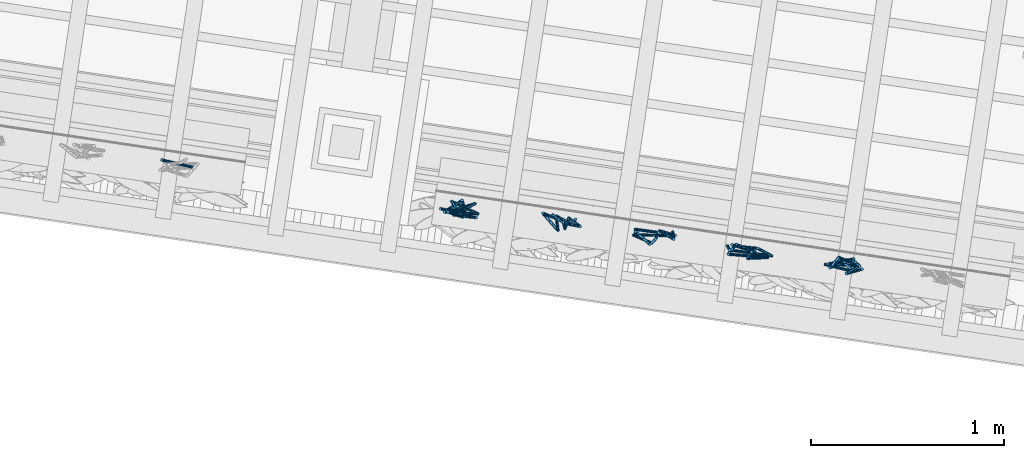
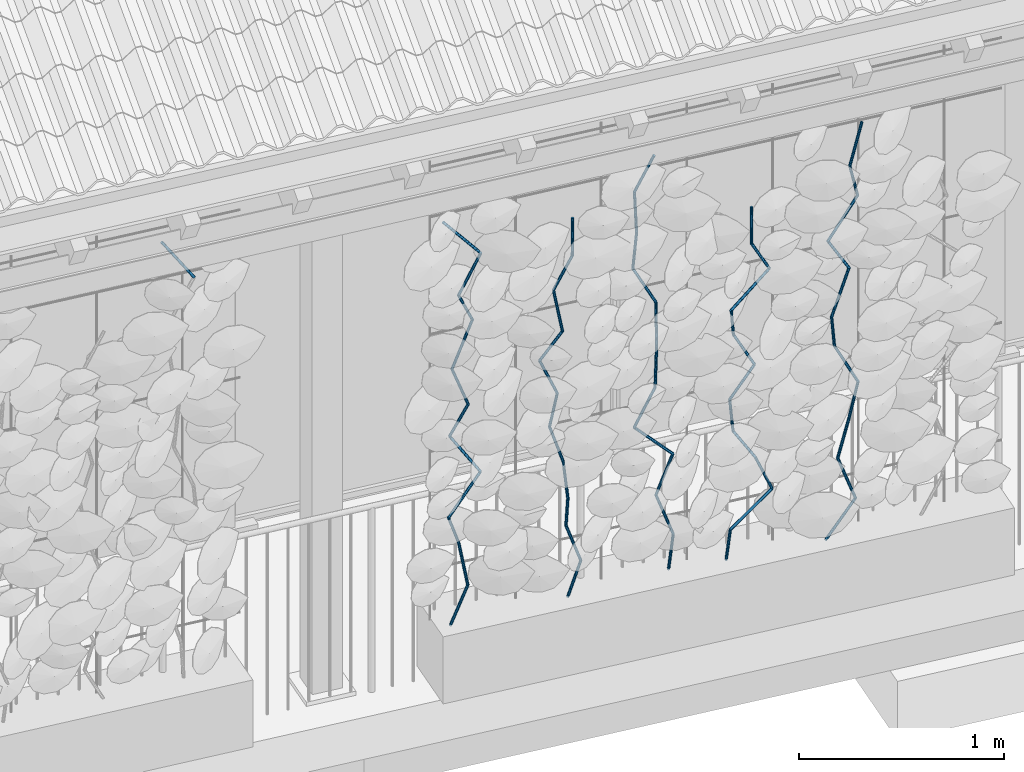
# One storey, part 110 of 131: 56 members, 1 element without a shape of its own.
"""IFC4 building model written with IfcOpenShell, lengths in metres."""

from ifc_helpers import new_model, si_unit, direction, frame, origin_with_axes, place, context, subcontext, project, spatial, circle, extrude, material, material_profile, profile_set, profile_usage, type_object, element, aggregate, save


model = new_model("IFC4")

# Units and contexts
model_context = context("Model", 3, precision=1e-05, world=origin_with_axes(), true_north=direction((0.0, 1.0)))
body_context = subcontext(model_context, "Body", "Model", "MODEL_VIEW")
ifc_project = project(units=[si_unit("AREAUNIT", "SQUARE_METRE"), si_unit("VOLUMEUNIT", "CUBIC_METRE"), si_unit("LENGTHUNIT", "METRE")], contexts=[model_context])

# Site, building, storey
site_placement = place(None, origin_with_axes())
site = spatial("IfcSite", under=ifc_project, at=site_placement, Name="Lares · Rua das Mercês · artigo 4771")
building_placement = place(site_placement, frame((15.0, 9.7, 14.65), z_axis=(0.0, 0.0, 1.0), x_axis=(0.989015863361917, -0.147809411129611, 0.0)))
building = spatial("IfcBuilding", under=site, at=building_placement, Name="Casa Sobreposta")
storey_placement = place(building_placement, origin_with_axes())
storey = spatial("IfcBuildingStorey", under=building, at=storey_placement, Name="00 · Habitação e estacionamento", Elevation=14.65)

# Assembly, members
assembly_placement = place(storey_placement, origin_with_axes())
assembly = element("IfcElementAssembly", 1, at=assembly_placement, inside=storey, Name="Fachada sul e pátio · estrutura e trepadeiras", ObjectType="LIVING_SHADE_TRELLIS", PredefinedType="USERDEFINED")
ifc_material = material(Name="Ramos de trepadeiras", Category="wood")
ifc_material_profile = material_profile(ifc_material, circle(Radius=0.0075))
ifc_profile_set = profile_set([ifc_material_profile], Name="D0.015")
ifc_profile_usage_1 = profile_usage(ifc_profile_set)
member_type = type_object("IfcMemberType", Name="D0.015 / vine_wood", PredefinedType="NOTDEFINED", material=ifc_profile_set)
member_1_placement = place(assembly_placement, frame((7.23474706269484, -1.67516306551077, 2.75997895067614), z_axis=(-0.561074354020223, 0.0463893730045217, 0.826464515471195), x_axis=(0.0823983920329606, 0.996599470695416, 0.0)))
member_1 = element("IfcMember", 2, at=member_1_placement, type_object=member_type, material=ifc_profile_usage_1, Name="Trepadeiras · ramo", context=body_context, shape_type="SweptSolid", body=[
    extrude(circle(Radius=0.0075), origin_with_axes(), (0.0, 0.0, 1.0), 0.29160101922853),
])
ifc_profile_usage_2 = profile_usage(ifc_profile_set)
member_2_placement = place(assembly_placement, frame((8.57260770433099, -1.69487939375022, 0.35), z_axis=(0.387109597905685, -0.00148647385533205, 0.922032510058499), x_axis=(-0.00383990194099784, -0.999992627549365, 0.0)))
member_2 = element("IfcMember", 3, at=member_2_placement, type_object=member_type, material=ifc_profile_usage_2, Name="Trepadeiras · ramo", context=body_context, shape_type="SweptSolid", body=[
    extrude(circle(Radius=0.0075), origin_with_axes(), (0.0, 0.0, 1.0), 0.23837097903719),
])
ifc_profile_usage_3 = profile_usage(ifc_profile_set)
member_3_placement = place(assembly_placement, frame((8.66488339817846, -1.69523372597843, 0.569785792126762), z_axis=(-0.111886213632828, 0.247324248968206, 0.962451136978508), x_axis=(0.911105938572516, 0.412172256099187, 0.0)))
member_3 = element("IfcMember", 4, at=member_3_placement, type_object=member_type, material=ifc_profile_usage_3, Name="Trepadeiras · ramo", context=body_context, shape_type="SweptSolid", body=[
    extrude(circle(Radius=0.0075), origin_with_axes(), (0.0, 0.0, 1.0), 0.228360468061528),
])
ifc_profile_usage_4 = profile_usage(ifc_profile_set)
member_4_placement = place(assembly_placement, frame((8.63933301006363, -1.63875464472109, 0.789571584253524), z_axis=(-0.334534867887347, -0.296332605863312, 0.894580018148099), x_axis=(-0.663073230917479, 0.748554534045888, 0.0)))
member_4 = element("IfcMember", 5, at=member_4_placement, type_object=member_type, material=ifc_profile_usage_4, Name="Trepadeiras · ramo", context=body_context, shape_type="SweptSolid", body=[
    extrude(circle(Radius=0.0075), origin_with_axes(), (0.0, 0.0, 1.0), 0.245686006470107),
])
ifc_profile_usage_5 = profile_usage(ifc_profile_set)
member_5_placement = place(assembly_placement, frame((8.55714247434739, -1.71155941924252, 1.00935737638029), z_axis=(0.619826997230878, 0.0569296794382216, 0.782670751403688), x_axis=(0.0914627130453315, -0.99580850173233, 0.0)))
member_5 = element("IfcMember", 6, at=member_5_placement, type_object=member_type, material=ifc_profile_usage_5, Name="Trepadeiras · ramo", context=body_context, shape_type="SweptSolid", body=[
    extrude(circle(Radius=0.0075), origin_with_axes(), (0.0, 0.0, 1.0), 0.280815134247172),
])
ifc_profile_usage_6 = profile_usage(ifc_profile_set)
member_6_placement = place(assembly_placement, frame((8.7311992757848, -1.69557270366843, 1.22914316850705), z_axis=(-0.543524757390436, 0.163952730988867, 0.823225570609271), x_axis=(0.288794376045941, 0.957391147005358, 0.0)))
member_6 = element("IfcMember", 7, at=member_6_placement, type_object=member_type, material=ifc_profile_usage_6, Name="Trepadeiras · ramo", context=body_context, shape_type="SweptSolid", body=[
    extrude(circle(Radius=0.0075), origin_with_axes(), (0.0, 0.0, 1.0), 0.266981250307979),
])
ifc_profile_usage_7 = profile_usage(ifc_profile_set)
member_7_placement = place(assembly_placement, frame((8.58608835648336, -1.65180039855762, 1.44892896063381), z_axis=(0.287938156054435, -0.297150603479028, 0.910380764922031), x_axis=(-0.718151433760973, -0.69588685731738, 0.0)))
member_7 = element("IfcMember", 8, at=member_7_placement, type_object=member_type, material=ifc_profile_usage_7, Name="Trepadeiras · ramo", context=body_context, shape_type="SweptSolid", body=[
    extrude(circle(Radius=0.0075), origin_with_axes(), (0.0, 0.0, 1.0), 0.241421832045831),
])
ifc_profile_usage_8 = profile_usage(ifc_profile_set)
member_8_placement = place(assembly_placement, frame((8.65560291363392, -1.72353904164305, 1.66871475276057), z_axis=(-0.339136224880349, 0.0610326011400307, 0.938755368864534), x_axis=(0.177119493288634, 0.9841893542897, 0.0)))
member_8 = element("IfcMember", 9, at=member_8_placement, type_object=member_type, material=ifc_profile_usage_8, Name="Trepadeiras · ramo", context=body_context, shape_type="SweptSolid", body=[
    extrude(circle(Radius=0.0075), origin_with_axes(), (0.0, 0.0, 1.0), 0.234124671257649),
])
ifc_profile_usage_9 = profile_usage(ifc_profile_set)
member_9_placement = place(assembly_placement, frame((8.57620275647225, -1.70924980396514, 1.88850054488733), z_axis=(0.500498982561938, 0.242565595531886, 0.831061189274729), x_axis=(0.436127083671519, -0.899885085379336, 0.0)))
member_9 = element("IfcMember", 10, at=member_9_placement, type_object=member_type, material=ifc_profile_usage_9, Name="Trepadeiras · ramo", context=body_context, shape_type="SweptSolid", body=[
    extrude(circle(Radius=0.0075), origin_with_axes(), (0.0, 0.0, 1.0), 0.264464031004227),
])
ifc_profile_usage_10 = profile_usage(ifc_profile_set)
member_10_placement = place(assembly_placement, frame((8.70856673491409, -1.64509992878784, 2.1082863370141), z_axis=(-0.401855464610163, -0.29322403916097, 0.867485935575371), x_axis=(-0.589440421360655, 0.807811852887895, 2.42004269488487e-17)))
member_10 = element("IfcMember", 11, at=member_10_placement, type_object=member_type, material=ifc_profile_usage_10, Name="Trepadeiras · ramo", context=body_context, shape_type="SweptSolid", body=[
    extrude(circle(Radius=0.0075), origin_with_axes(), (0.0, 0.0, 1.0), 0.253359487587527),
])
ifc_profile_usage_11 = profile_usage(ifc_profile_set)
member_11_placement = place(assembly_placement, frame((8.60675284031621, -1.719391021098, 2.32807212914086), z_axis=(0.474109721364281, 0.0126002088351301, 0.880375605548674), x_axis=(0.026567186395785, -0.999647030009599, 0.0)))
member_11 = element("IfcMember", 12, at=member_11_placement, type_object=member_type, material=ifc_profile_usage_11, Name="Trepadeiras · ramo", context=body_context, shape_type="SweptSolid", body=[
    extrude(circle(Radius=0.0075), origin_with_axes(), (0.0, 0.0, 1.0), 0.249650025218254),
])
ifc_profile_usage_12 = profile_usage(ifc_profile_set)
member_12_placement = place(assembly_placement, frame((8.72511434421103, -1.71624537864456, 2.54785792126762), z_axis=(-0.653038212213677, 0.0653463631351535, 0.754500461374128), x_axis=(0.0995678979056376, 0.995030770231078, 0.0)))
member_12 = element("IfcMember", 13, at=member_12_placement, type_object=member_type, material=ifc_profile_usage_12, Name="Trepadeiras · ramo", context=body_context, shape_type="SweptSolid", body=[
    extrude(circle(Radius=0.0075), origin_with_axes(), (0.0, 0.0, 1.0), 0.291299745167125),
])
ifc_profile_usage_13 = profile_usage(ifc_profile_set)
member_13_placement = place(assembly_placement, frame((9.19555170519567, -1.67878128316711, 0.35), z_axis=(0.318258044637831, -0.012888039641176, 0.947916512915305), x_axis=(-0.0404624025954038, -0.9991810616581, 2.58128021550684e-18)))
member_13 = element("IfcMember", 14, at=member_13_placement, type_object=member_type, material=ifc_profile_usage_13, Name="Trepadeiras · ramo", context=body_context, shape_type="SweptSolid", body=[
    extrude(circle(Radius=0.0075), origin_with_axes(), (0.0, 0.0, 1.0), 0.214174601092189),
])
ifc_profile_usage_14 = profile_usage(ifc_profile_set)
member_14_placement = place(assembly_placement, frame((9.26371449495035, -1.68154157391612, 0.553019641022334), z_axis=(-0.299327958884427, 0.157242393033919, 0.941104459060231), x_axis=(0.465054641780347, 0.885281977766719, 0.0)))
member_14 = element("IfcMember", 15, at=member_14_placement, type_object=member_type, material=ifc_profile_usage_14, Name="Trepadeiras · ramo", context=body_context, shape_type="SweptSolid", body=[
    extrude(circle(Radius=0.0075), origin_with_axes(), (0.0, 0.0, 1.0), 0.215724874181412),
])
ifc_profile_usage_15 = profile_usage(ifc_profile_set)
member_15_placement = place(assembly_placement, frame((9.19914200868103, -1.64762047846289, 0.756039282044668), z_axis=(-0.058883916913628, -0.269381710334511, 0.961231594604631), x_axis=(-0.976932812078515, 0.213546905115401, 0.0)))
member_15 = element("IfcMember", 16, at=member_15_placement, type_object=member_type, material=ifc_profile_usage_15, Name="Trepadeiras · ramo", context=body_context, shape_type="SweptSolid", body=[
    extrude(circle(Radius=0.0075), origin_with_axes(), (0.0, 0.0, 1.0), 0.211207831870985),
])
ifc_profile_usage_16 = profile_usage(ifc_profile_set)
member_16_placement = place(assembly_placement, frame((9.18670526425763, -1.70451600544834, 0.959058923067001), z_axis=(-0.0618656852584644, 0.149417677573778, 0.986836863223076), x_axis=(0.923934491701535, 0.382550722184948, 0.0)))
member_16 = element("IfcMember", 17, at=member_16_placement, type_object=member_type, material=ifc_profile_usage_16, Name="Trepadeiras · ramo", context=body_context, shape_type="SweptSolid", body=[
    extrude(circle(Radius=0.0075), origin_with_axes(), (0.0, 0.0, 1.0), 0.205727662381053),
])
ifc_profile_usage_17 = profile_usage(ifc_profile_set)
member_17_placement = place(assembly_placement, frame((9.17397778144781, -1.67377665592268, 1.16207856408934), z_axis=(-0.279521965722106, 0.13950094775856, 0.949951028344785), x_axis=(0.446547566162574, 0.894759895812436, 0.0)))
member_17 = element("IfcMember", 18, at=member_17_placement, type_object=member_type, material=ifc_profile_usage_17, Name="Trepadeiras · ramo", context=body_context, shape_type="SweptSolid", body=[
    extrude(circle(Radius=0.0075), origin_with_axes(), (0.0, 0.0, 1.0), 0.213715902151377),
])
ifc_profile_usage_18 = profile_usage(ifc_profile_set)
member_18_placement = place(assembly_placement, frame((9.11423949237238, -1.64396308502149, 1.36509820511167), z_axis=(0.161935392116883, -0.0887500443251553, 0.982802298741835), x_axis=(-0.480610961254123, -0.876933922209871, 0.0)))
member_18 = element("IfcMember", 19, at=member_18_placement, type_object=member_type, material=ifc_profile_usage_18, Name="Trepadeiras · ramo", context=body_context, shape_type="SweptSolid", body=[
    extrude(circle(Radius=0.0075), origin_with_axes(), (0.0, 0.0, 1.0), 0.206572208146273),
])
ifc_profile_usage_19 = profile_usage(ifc_profile_set)
member_19_placement = place(assembly_placement, frame((9.147690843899, -1.66229637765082, 1.568117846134), z_axis=(-0.385174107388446, 0.0889285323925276, 0.918549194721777), x_axis=(0.224960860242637, 0.974367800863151, 0.0)))
member_19 = element("IfcMember", 20, at=member_19_placement, type_object=member_type, material=ifc_profile_usage_19, Name="Trepadeiras · ramo", context=body_context, shape_type="SweptSolid", body=[
    extrude(circle(Radius=0.0075), origin_with_axes(), (0.0, 0.0, 1.0), 0.221022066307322),
])
ifc_profile_usage_20 = profile_usage(ifc_profile_set)
member_20_placement = place(assembly_placement, frame((9.06255886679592, -1.64264120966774, 1.77113748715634), z_axis=(0.383724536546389, -0.325141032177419, 0.864314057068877), x_axis=(-0.64646469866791, -0.762943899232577, 0.0)))
member_20 = element("IfcMember", 21, at=member_20_placement, type_object=member_type, material=ifc_profile_usage_20, Name="Trepadeiras · ramo", context=body_context, shape_type="SweptSolid", body=[
    extrude(circle(Radius=0.0075), origin_with_axes(), (0.0, 0.0, 1.0), 0.234891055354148),
])
ifc_profile_usage_21 = profile_usage(ifc_profile_set)
member_21_placement = place(assembly_placement, frame((9.15269232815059, -1.71901392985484, 1.97415712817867), z_axis=(-0.0885627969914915, 0.334741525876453, 0.93813897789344), x_axis=(0.966737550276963, 0.255770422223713, 0.0)))
member_21 = element("IfcMember", 22, at=member_21_placement, type_object=member_type, material=ifc_profile_usage_21, Name="Trepadeiras · ramo", context=body_context, shape_type="SweptSolid", body=[
    extrude(circle(Radius=0.0075), origin_with_axes(), (0.0, 0.0, 1.0), 0.216406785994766),
])
ifc_profile_usage_22 = profile_usage(ifc_profile_set)
member_22_placement = place(assembly_placement, frame((9.13352673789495, -1.64657359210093, 2.177176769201), z_axis=(0.387667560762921, -0.142815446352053, 0.910668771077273), x_axis=(-0.34568523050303, -0.938350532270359, 0.0)))
member_22 = element("IfcMember", 23, at=member_22_placement, type_object=member_type, material=ifc_profile_usage_22, Name="Trepadeiras · ramo", context=body_context, shape_type="SweptSolid", body=[
    extrude(circle(Radius=0.0075), origin_with_axes(), (0.0, 0.0, 1.0), 0.222934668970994),
])
ifc_profile_usage_23 = profile_usage(ifc_profile_set)
member_23_placement = place(assembly_placement, frame((9.21995127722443, -1.67841210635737, 2.38019641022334), z_axis=(0.0696493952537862, 0.146990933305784, 0.986682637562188), x_axis=(0.903685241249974, -0.428197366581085, 0.0)))
member_23 = element("IfcMember", 24, at=member_23_placement, type_object=member_type, material=ifc_profile_usage_23, Name="Trepadeiras · ramo", context=body_context, shape_type="SweptSolid", body=[
    extrude(circle(Radius=0.0075), origin_with_axes(), (0.0, 0.0, 1.0), 0.205759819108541),
])
ifc_profile_usage_24 = profile_usage(ifc_profile_set)
member_24_placement = place(assembly_placement, frame((9.74112127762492, -1.63887906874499, 0.35), z_axis=(0.0453912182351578, -0.153199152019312, 0.987152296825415), x_axis=(-0.958800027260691, -0.28408186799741, 0.0)))
member_24 = element("IfcMember", 25, at=member_24_placement, type_object=member_type, material=ifc_profile_usage_24, Name="Trepadeiras · ramo", context=body_context, shape_type="SweptSolid", body=[
    extrude(circle(Radius=0.0075), origin_with_axes(), (0.0, 0.0, 1.0), 0.234813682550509),
])
ifc_profile_usage_25 = profile_usage(ifc_profile_set)
member_25_placement = place(assembly_placement, frame((9.75177975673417, -1.67485232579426, 0.581796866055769), z_axis=(-0.318166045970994, 0.127586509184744, 0.93941047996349), x_axis=(0.37219551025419, 0.928154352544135, 0.0)))
member_25 = element("IfcMember", 26, at=member_25_placement, type_object=member_type, material=ifc_profile_usage_25, Name="Trepadeiras · ramo", context=body_context, shape_type="SweptSolid", body=[
    extrude(circle(Radius=0.0075), origin_with_axes(), (0.0, 0.0, 1.0), 0.246747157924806),
])
ifc_profile_usage_26 = profile_usage(ifc_profile_set)
member_26_placement = place(assembly_placement, frame((9.67327318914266, -1.64337071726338, 0.813593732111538), z_axis=(0.340802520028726, -0.0476376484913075, 0.938927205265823), x_axis=(-0.138434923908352, -0.990371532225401, 0.0)))
member_26 = element("IfcMember", 27, at=member_26_placement, type_object=member_type, material=ifc_profile_usage_26, Name="Trepadeiras · ramo", context=body_context, shape_type="SweptSolid", body=[
    extrude(circle(Radius=0.0075), origin_with_axes(), (0.0, 0.0, 1.0), 0.246874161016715),
])
ifc_profile_usage_27 = profile_usage(ifc_profile_set)
member_27_placement = place(assembly_placement, frame((9.75740852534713, -1.65513122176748, 1.04539059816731), z_axis=(-0.676152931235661, -0.0943361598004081, 0.730696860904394), x_axis=(-0.138180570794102, 0.990407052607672, 0.0)))
member_27 = element("IfcMember", 28, at=member_27_placement, type_object=member_type, material=ifc_profile_usage_27, Name="Trepadeiras · ramo", context=body_context, shape_type="SweptSolid", body=[
    extrude(circle(Radius=0.0075), origin_with_axes(), (0.0, 0.0, 1.0), 0.317227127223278),
])
ifc_profile_usage_28 = profile_usage(ifc_profile_set)
member_28_placement = place(assembly_placement, frame((9.54291447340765, -1.68505721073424, 1.27718746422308), z_axis=(0.390104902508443, -0.1070347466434, 0.914528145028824), x_axis=(-0.264595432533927, -0.964359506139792, 0.0)))
member_28 = element("IfcMember", 29, at=member_28_placement, type_object=member_type, material=ifc_profile_usage_28, Name="Trepadeiras · ramo", context=body_context, shape_type="SweptSolid", body=[
    extrude(circle(Radius=0.0075), origin_with_axes(), (0.0, 0.0, 1.0), 0.253460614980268),
])
ifc_profile_usage_29 = profile_usage(ifc_profile_set)
member_29_placement = place(assembly_placement, frame((9.64179070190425, -1.71218630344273, 1.50898433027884), z_axis=(0.0748317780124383, 0.101112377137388, 0.992056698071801), x_axis=(0.803809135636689, -0.594887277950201, 0.0)))
member_29 = element("IfcMember", 30, at=member_29_placement, type_object=member_type, material=ifc_profile_usage_29, Name="Trepadeiras · ramo", context=body_context, shape_type="SweptSolid", body=[
    extrude(circle(Radius=0.0075), origin_with_axes(), (0.0, 0.0, 1.0), 0.23365284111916),
])
ifc_profile_usage_30 = profile_usage(ifc_profile_set)
member_30_placement = place(assembly_placement, frame((9.65927535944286, -1.68856110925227, 1.74078119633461), z_axis=(0.0400911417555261, 0.152524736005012, 0.987486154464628), x_axis=(0.967147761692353, -0.254214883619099, 0.0)))
member_30 = element("IfcMember", 31, at=member_30_placement, type_object=member_type, material=ifc_profile_usage_30, Name="Trepadeiras · ramo", context=body_context, shape_type="SweptSolid", body=[
    extrude(circle(Radius=0.0075), origin_with_axes(), (0.0, 0.0, 1.0), 0.234734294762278),
])
ifc_profile_usage_31 = profile_usage(ifc_profile_set)
member_31_placement = place(assembly_placement, frame((9.66868612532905, -1.65275832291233, 1.97257806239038), z_axis=(-0.463480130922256, -0.00724472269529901, 0.886077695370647), x_axis=(-0.01562923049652, 0.999877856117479, 0.0)))
member_31 = element("IfcMember", 32, at=member_31_placement, type_object=member_type, material=ifc_profile_usage_31, Name="Trepadeiras · ramo", context=body_context, shape_type="SweptSolid", body=[
    extrude(circle(Radius=0.0075), origin_with_axes(), (0.0, 0.0, 1.0), 0.261598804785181),
])
ifc_profile_usage_32 = profile_usage(ifc_profile_set)
member_32_placement = place(assembly_placement, frame((9.54744027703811, -1.65465353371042, 2.20437492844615), z_axis=(0.0328627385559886, -0.130763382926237, 0.990868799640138), x_axis=(-0.969841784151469, -0.243735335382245, 0.0)))
member_32 = element("IfcMember", 33, at=member_32_placement, type_object=member_type, material=ifc_profile_usage_32, Name="Trepadeiras · ramo", context=body_context, shape_type="SweptSolid", body=[
    extrude(circle(Radius=0.0075), origin_with_axes(), (0.0, 0.0, 1.0), 0.23393295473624),
])
ifc_profile_usage_33 = profile_usage(ifc_profile_set)
member_33_placement = place(assembly_placement, frame((9.55512795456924, -1.68524339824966, 2.43617179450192), z_axis=(-0.0170006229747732, 0.0806829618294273, 0.996594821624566), x_axis=(0.978513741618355, 0.206181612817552, 0.0)))
member_33 = element("IfcMember", 34, at=member_33_placement, type_object=member_type, material=ifc_profile_usage_33, Name="Trepadeiras · ramo", context=body_context, shape_type="SweptSolid", body=[
    extrude(circle(Radius=0.0075), origin_with_axes(), (0.0, 0.0, 1.0), 0.232588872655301),
])
ifc_profile_usage_34 = profile_usage(ifc_profile_set)
member_34_placement = place(assembly_placement, frame((9.5511737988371, -1.66647743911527, 2.66796866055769), z_axis=(0.327277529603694, -0.210771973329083, 0.92112137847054), x_axis=(-0.54144681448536, -0.840735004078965, 3.28382531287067e-17)))
member_34 = element("IfcMember", 35, at=member_34_placement, type_object=member_type, material=ifc_profile_usage_34, Name="Trepadeiras · ramo", context=body_context, shape_type="SweptSolid", body=[
    extrude(circle(Radius=0.0075), origin_with_axes(), (0.0, 0.0, 1.0), 0.251646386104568),
])
ifc_profile_usage_35 = profile_usage(ifc_profile_set)
member_35_placement = place(assembly_placement, frame((10.0322840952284, -1.66794075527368, 0.35), z_axis=(0.0734242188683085, -0.105281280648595, 0.991728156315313), x_axis=(-0.820228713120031, -0.572035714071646, 0.0)))
member_35 = element("IfcMember", 36, at=member_35_placement, type_object=member_type, material=ifc_profile_usage_35, Name="Trepadeiras · ramo", context=body_context, shape_type="SweptSolid", body=[
    extrude(circle(Radius=0.0075), origin_with_axes(), (0.0, 0.0, 1.0), 0.190846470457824),
])
ifc_profile_usage_36 = profile_usage(ifc_profile_set)
member_36_placement = place(assembly_placement, frame((10.0462968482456, -1.68803331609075, 0.539267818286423), z_axis=(0.758571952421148, 0.00704599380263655, 0.651551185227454), x_axis=(0.00928809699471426, -0.999956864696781, 0.0)))
member_36 = element("IfcMember", 37, at=member_36_placement, type_object=member_type, material=ifc_profile_usage_36, Name="Trepadeiras · ramo", context=body_context, shape_type="SweptSolid", body=[
    extrude(circle(Radius=0.0075), origin_with_axes(), (0.0, 0.0, 1.0), 0.290488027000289),
])
ifc_profile_usage_37 = profile_usage(ifc_profile_set)
member_37_placement = place(assembly_placement, frame((10.2666529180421, -1.68598653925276, 0.728535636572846), z_axis=(-0.377309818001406, 0.134851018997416, 0.916216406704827), x_axis=(0.336552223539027, 0.941664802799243, 0.0)))
member_37 = element("IfcMember", 38, at=member_37_placement, type_object=member_type, material=ifc_profile_usage_37, Name="Trepadeiras · ramo", context=body_context, shape_type="SweptSolid", body=[
    extrude(circle(Radius=0.0075), origin_with_axes(), (0.0, 0.0, 1.0), 0.206575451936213),
])
ifc_profile_usage_38 = profile_usage(ifc_profile_set)
member_38_placement = place(assembly_placement, frame((10.1887099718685, -1.65812962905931, 0.917803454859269), z_axis=(-0.530574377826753, -0.0264164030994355, 0.847226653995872), x_axis=(-0.049726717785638, 0.998762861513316, 0.0)))
member_38 = element("IfcMember", 39, at=member_38_placement, type_object=member_type, material=ifc_profile_usage_38, Name="Trepadeiras · ramo", context=body_context, shape_type="SweptSolid", body=[
    extrude(circle(Radius=0.0075), origin_with_axes(), (0.0, 0.0, 1.0), 0.223396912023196),
])
ifc_profile_usage_39 = profile_usage(ifc_profile_set)
member_39_placement = place(assembly_placement, frame((10.0701812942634, -1.66403097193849, 1.10707127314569), z_axis=(-0.0842012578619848, 0.0220395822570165, 0.996205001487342), x_axis=(0.253218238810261, 0.967409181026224, 0.0)))
member_39 = element("IfcMember", 40, at=member_39_placement, type_object=member_type, material=ifc_profile_usage_39, Name="Trepadeiras · ramo", context=body_context, shape_type="SweptSolid", body=[
    extrude(circle(Radius=0.0075), origin_with_axes(), (0.0, 0.0, 1.0), 0.189988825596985),
])
ifc_profile_usage_40 = profile_usage(ifc_profile_set)
member_40_placement = place(assembly_placement, frame((10.0541839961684, -1.65984369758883, 1.29633909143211), z_axis=(0.545007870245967, -0.0769728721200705, 0.834890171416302), x_axis=(-0.139844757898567, -0.990173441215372, 0.0)))
member_40 = element("IfcMember", 41, at=member_40_placement, type_object=member_type, material=ifc_profile_usage_40, Name="Trepadeiras · ramo", context=body_context, shape_type="SweptSolid", body=[
    extrude(circle(Radius=0.0075), origin_with_axes(), (0.0, 0.0, 1.0), 0.226697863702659),
])
ifc_profile_usage_41 = profile_usage(ifc_profile_set)
member_41_placement = place(assembly_placement, frame((10.1777361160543, -1.67729328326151, 1.48560690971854), z_axis=(-0.472023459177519, 0.103510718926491, 0.875488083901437), x_axis=(0.2142016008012, 0.976789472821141, 0.0)))
member_41 = element("IfcMember", 42, at=member_41_placement, type_object=member_type, material=ifc_profile_usage_41, Name="Trepadeiras · ramo", context=body_context, shape_type="SweptSolid", body=[
    extrude(circle(Radius=0.0075), origin_with_axes(), (0.0, 0.0, 1.0), 0.216185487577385),
])
ifc_profile_usage_42 = profile_usage(ifc_profile_set)
member_42_placement = place(assembly_placement, frame((10.075691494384, -1.6549157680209, 1.67487472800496), z_axis=(-0.167670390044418, -0.277529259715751, 0.945972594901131), x_axis=(-0.855920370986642, 0.517107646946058, 0.0)))
member_42 = element("IfcMember", 43, at=member_42_placement, type_object=member_type, material=ifc_profile_usage_42, Name="Trepadeiras · ramo", context=body_context, shape_type="SweptSolid", body=[
    extrude(circle(Radius=0.0075), origin_with_axes(), (0.0, 0.0, 1.0), 0.200077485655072),
])
ifc_profile_usage_43 = profile_usage(ifc_profile_set)
member_43_placement = place(assembly_placement, frame((10.0421444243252, -1.71044312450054, 1.86414254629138), z_axis=(0.735404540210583, 0.0473846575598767, 0.675969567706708), x_axis=(0.0643001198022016, -0.997930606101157, 0.0)))
member_43 = element("IfcMember", 44, at=member_43_placement, type_object=member_type, material=ifc_profile_usage_43, Name="Trepadeiras · ramo", context=body_context, shape_type="SweptSolid", body=[
    extrude(circle(Radius=0.0075), origin_with_axes(), (0.0, 0.0, 1.0), 0.279994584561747),
])
ifc_profile_usage_44 = profile_usage(ifc_profile_set)
member_44_placement = place(assembly_placement, frame((10.2480537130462, -1.69717567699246, 2.05341036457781), z_axis=(-0.475026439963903, -0.0921827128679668, 0.875129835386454), x_axis=(-0.190504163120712, 0.981686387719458, 0.0)))
member_44 = element("IfcMember", 45, at=member_44_placement, type_object=member_type, material=ifc_profile_usage_44, Name="Trepadeiras · ramo", context=body_context, shape_type="SweptSolid", body=[
    extrude(circle(Radius=0.0075), origin_with_axes(), (0.0, 0.0, 1.0), 0.216273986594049),
])
ifc_profile_usage_45 = profile_usage(ifc_profile_set)
member_45_placement = place(assembly_placement, frame((10.1453178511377, -1.71711239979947, 2.24267818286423), z_axis=(0.0786417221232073, 0.18707443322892, 0.979192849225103), x_axis=(0.92185809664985, -0.387527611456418, 0.0)))
member_45 = element("IfcMember", 46, at=member_45_placement, type_object=member_type, material=ifc_profile_usage_45, Name="Trepadeiras · ramo", context=body_context, shape_type="SweptSolid", body=[
    extrude(circle(Radius=0.0075), origin_with_axes(), (0.0, 0.0, 1.0), 0.193289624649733),
])
ifc_profile_usage_46 = profile_usage(ifc_profile_set)
member_46_placement = place(assembly_placement, frame((10.5459835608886, -1.68860823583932, 0.35), z_axis=(0.563765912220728, -0.054509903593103, 0.824133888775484), x_axis=(-0.0962400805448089, -0.995358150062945, 0.0)))
member_46 = element("IfcMember", 47, at=member_46_placement, type_object=member_type, material=ifc_profile_usage_46, Name="Trepadeiras · ramo", context=body_context, shape_type="SweptSolid", body=[
    extrude(circle(Radius=0.0075), origin_with_axes(), (0.0, 0.0, 1.0), 0.269569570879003),
])
ifc_profile_usage_47 = profile_usage(ifc_profile_set)
member_47_placement = place(assembly_placement, frame((10.6979576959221, -1.70330244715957, 0.572161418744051), z_axis=(-0.306550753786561, 0.215334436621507, 0.927177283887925), x_axis=(0.574803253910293, 0.818291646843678, 0.0)))
member_47 = element("IfcMember", 48, at=member_47_placement, type_object=member_type, material=ifc_profile_usage_47, Name="Trepadeiras · ramo", context=body_context, shape_type="SweptSolid", body=[
    extrude(circle(Radius=0.0075), origin_with_axes(), (0.0, 0.0, 1.0), 0.239610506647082),
])
ifc_profile_usage_48 = profile_usage(ifc_profile_set)
member_48_placement = place(assembly_placement, frame((10.6245049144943, -1.65170605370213, 0.794322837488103), z_axis=(0.268244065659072, 0.0205784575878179, 0.963131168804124), x_axis=(0.0764906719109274, -0.997070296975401, 0.0)))
member_48 = element("IfcMember", 49, at=member_48_placement, type_object=member_type, material=ifc_profile_usage_48, Name="Trepadeiras · ramo", context=body_context, shape_type="SweptSolid", body=[
    extrude(circle(Radius=0.0075), origin_with_axes(), (0.0, 0.0, 1.0), 0.230665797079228),
])
ifc_profile_usage_49 = profile_usage(ifc_profile_set)
member_49_placement = place(assembly_placement, frame((10.6863796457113, -1.64695930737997, 1.01648425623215), z_axis=(0.167091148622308, -0.102667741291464, 0.980581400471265), x_axis=(-0.523514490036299, -0.85201677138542, 0.0)))
member_49 = element("IfcMember", 50, at=member_49_placement, type_object=member_type, material=ifc_profile_usage_49, Name="Trepadeiras · ramo", context=body_context, shape_type="SweptSolid", body=[
    extrude(circle(Radius=0.0075), origin_with_axes(), (0.0, 0.0, 1.0), 0.22656091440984),
])
ifc_profile_usage_50 = profile_usage(ifc_profile_set)
member_50_placement = place(assembly_placement, frame((10.724235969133, -1.67021980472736, 1.23864567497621), z_axis=(-0.450256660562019, 0.110456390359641, 0.886040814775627), x_axis=(0.238254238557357, 0.971202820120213, 0.0)))
member_50 = element("IfcMember", 51, at=member_50_placement, type_object=member_type, material=ifc_profile_usage_50, Name="Trepadeiras · ramo", context=body_context, shape_type="SweptSolid", body=[
    extrude(circle(Radius=0.0075), origin_with_axes(), (0.0, 0.0, 1.0), 0.250734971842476),
])
ifc_profile_usage_51 = profile_usage(ifc_profile_set)
member_51_placement = place(assembly_placement, frame((10.6113408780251, -1.64252452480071, 1.46080709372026), z_axis=(-0.165076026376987, -0.254000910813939, 0.953012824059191), x_axis=(-0.838480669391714, 0.544931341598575, 0.0)))
member_51 = element("IfcMember", 52, at=member_51_placement, type_object=member_type, material=ifc_profile_usage_51, Name="Trepadeiras · ramo", context=body_context, shape_type="SweptSolid", body=[
    extrude(circle(Radius=0.0075), origin_with_axes(), (0.0, 0.0, 1.0), 0.23311482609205),
])
ifc_profile_usage_52 = profile_usage(ifc_profile_set)
member_52_placement = place(assembly_placement, frame((10.5728592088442, -1.70173590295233, 1.68296851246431), z_axis=(0.450323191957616, 0.243569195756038, 0.859001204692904), x_axis=(0.475745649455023, -0.879582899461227, 0.0)))
member_52 = element("IfcMember", 53, at=member_52_placement, type_object=member_type, material=ifc_profile_usage_52, Name="Trepadeiras · ramo", context=body_context, shape_type="SweptSolid", body=[
    extrude(circle(Radius=0.0075), origin_with_axes(), (0.0, 0.0, 1.0), 0.258627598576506),
])
ifc_profile_usage_53 = profile_usage(ifc_profile_set)
member_53_placement = place(assembly_placement, frame((10.6893252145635, -1.63874218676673, 1.90512993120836), z_axis=(-0.494124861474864, -0.17570853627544, 0.851450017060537), x_axis=(-0.33504301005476, 0.942202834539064, 0.0)))
member_53 = element("IfcMember", 54, at=member_53_placement, type_object=member_type, material=ifc_profile_usage_53, Name="Trepadeiras · ramo", context=body_context, shape_type="SweptSolid", body=[
    extrude(circle(Radius=0.0075), origin_with_axes(), (0.0, 0.0, 1.0), 0.260921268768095),
])
ifc_profile_usage_54 = profile_usage(ifc_profile_set)
member_54_placement = place(assembly_placement, frame((10.5603975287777, -1.68458828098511, 2.12729134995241), z_axis=(0.588590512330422, 0.0547468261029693, 0.806575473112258), x_axis=(0.0926136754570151, -0.99570211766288, 0.0)))
member_54 = element("IfcMember", 55, at=member_54_placement, type_object=member_type, material=ifc_profile_usage_54, Name="Trepadeiras · ramo", context=body_context, shape_type="SweptSolid", body=[
    extrude(circle(Radius=0.0075), origin_with_axes(), (0.0, 0.0, 1.0), 0.275437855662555),
])
ifc_profile_usage_55 = profile_usage(ifc_profile_set)
member_55_placement = place(assembly_placement, frame((10.7225176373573, -1.66950893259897, 2.34945276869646), z_axis=(-0.259159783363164, -0.212743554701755, 0.942112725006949), x_axis=(-0.634494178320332, 0.77292764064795, -1.94968453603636e-17)))
member_55 = element("IfcMember", 56, at=member_55_placement, type_object=member_type, material=ifc_profile_usage_55, Name="Trepadeiras · ramo", context=body_context, shape_type="SweptSolid", body=[
    extrude(circle(Radius=0.0075), origin_with_axes(), (0.0, 0.0, 1.0), 0.235811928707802),
])
ifc_profile_usage_56 = profile_usage(ifc_profile_set)
member_56_placement = place(assembly_placement, frame((10.6614046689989, -1.71967640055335, 2.57161418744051), z_axis=(0.326421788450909, 0.146883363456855, 0.933741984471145), x_axis=(0.410349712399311, -0.911928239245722, 0.0)))
member_56 = element("IfcMember", 57, at=member_56_placement, type_object=member_type, material=ifc_profile_usage_56, Name="Trepadeiras · ramo", context=body_context, shape_type="SweptSolid", body=[
    extrude(circle(Radius=0.0075), origin_with_axes(), (0.0, 0.0, 1.0), 0.237925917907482),
])
aggregate(assembly, [member_1, member_2, member_3, member_4, member_5, member_6, member_7, member_8, member_9, member_10, member_11, member_12, member_13, member_14, member_15, member_16, member_17, member_18, member_19, member_20, member_21, member_22, member_23, member_24, member_25, member_26, member_27, member_28, member_29, member_30, member_31, member_32, member_33, member_34, member_35, member_36, member_37, member_38, member_39, member_40, member_41, member_42, member_43, member_44, member_45, member_46, member_47, member_48, member_49, member_50, member_51, member_52, member_53, member_54, member_55, member_56])

save(model, "model.ifc")
